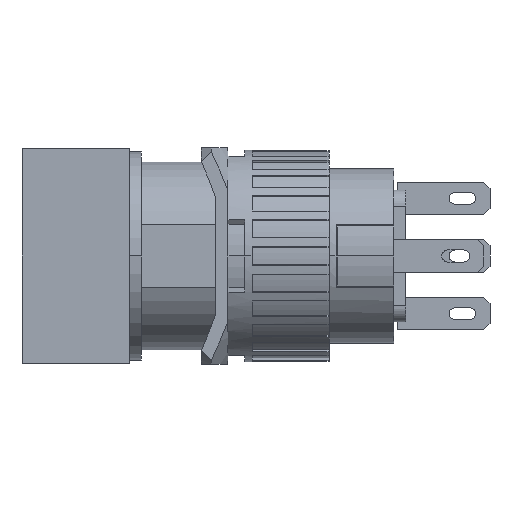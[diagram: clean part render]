
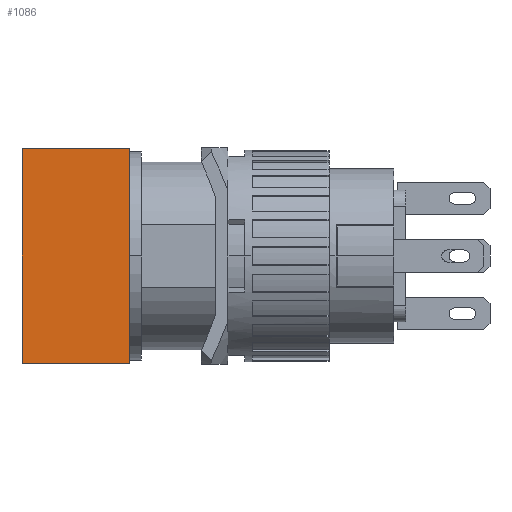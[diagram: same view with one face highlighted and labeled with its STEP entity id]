
A CAD part, left-side view. The second image highlights one B-rep face of the part: STEP entity #1086.
In plain terms, the highlighted planar face has unit normal (-1, 0, 0).
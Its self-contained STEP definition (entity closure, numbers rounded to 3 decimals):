
#913 = EDGE_CURVE ( 'NONE', #1343, #1331, #9861, .T. ) ;
#914 = EDGE_CURVE ( 'NONE', #1334, #1186, #9858, .T. ) ;
#918 = EDGE_CURVE ( 'NONE', #1186, #1331, #9846, .T. ) ;
#922 = EDGE_CURVE ( 'NONE', #1334, #1343, #9834, .T. ) ;
#1086 = ADVANCED_FACE ( 'NONE', ( #6053 ), #7441, .F. ) ;
#1186 = VERTEX_POINT ( 'NONE', #7344 ) ;
#1331 = VERTEX_POINT ( 'NONE', #7199 ) ;
#1334 = VERTEX_POINT ( 'NONE', #7196 ) ;
#1343 = VERTEX_POINT ( 'NONE', #7187 ) ;
#2656 = VECTOR ( 'NONE', #9844, 1000. ) ;
#2663 = VECTOR ( 'NONE', #9856, 1000. ) ;
#2665 = VECTOR ( 'NONE', #9859, 1000. ) ;
#2764 = VECTOR ( 'NONE', #9832, 1000. ) ;
#6053 = FACE_OUTER_BOUND ( 'NONE', #9066, .T. ) ;
#6059 = AXIS2_PLACEMENT_3D ( 'NONE', #7440, #7439, #7438 ) ;
#7187 = CARTESIAN_POINT ( 'NONE',  ( -8.925, 26.9, 8.925 ) ) ;
#7196 = CARTESIAN_POINT ( 'NONE',  ( -8.925, 26.9, -8.925 ) ) ;
#7199 = CARTESIAN_POINT ( 'NONE',  ( -8.925, 18., 8.925 ) ) ;
#7344 = CARTESIAN_POINT ( 'NONE',  ( -8.925, 18., -8.925 ) ) ;
#7438 = DIRECTION ( 'NONE',  ( 0., 1., 0. ) ) ;
#7439 = DIRECTION ( 'NONE',  ( 1., 0., 0. ) ) ;
#7440 = CARTESIAN_POINT ( 'NONE',  ( -8.925, 26.9, 8.925 ) ) ;
#7441 = PLANE ( 'NONE',  #6059 ) ;
#8435 = ORIENTED_EDGE ( 'NONE', *, *, #914, .T. ) ;
#8436 = ORIENTED_EDGE ( 'NONE', *, *, #913, .F. ) ;
#8437 = ORIENTED_EDGE ( 'NONE', *, *, #922, .F. ) ;
#8438 = ORIENTED_EDGE ( 'NONE', *, *, #918, .T. ) ;
#9066 = EDGE_LOOP ( 'NONE', ( #8438, #8436, #8437, #8435 ) ) ;
#9832 = DIRECTION ( 'NONE',  ( 0., 0., 1. ) ) ;
#9833 = CARTESIAN_POINT ( 'NONE',  ( -8.925, 26.9, 8.925 ) ) ;
#9834 = LINE ( 'NONE', #9833, #2764 ) ;
#9844 = DIRECTION ( 'NONE',  ( 0., 0., 1. ) ) ;
#9845 = CARTESIAN_POINT ( 'NONE',  ( -8.925, 18., 8.925 ) ) ;
#9846 = LINE ( 'NONE', #9845, #2656 ) ;
#9856 = DIRECTION ( 'NONE',  ( 0., -1., 0. ) ) ;
#9857 = CARTESIAN_POINT ( 'NONE',  ( -8.925, 26.9, -8.925 ) ) ;
#9858 = LINE ( 'NONE', #9857, #2663 ) ;
#9859 = DIRECTION ( 'NONE',  ( 0., -1., 0. ) ) ;
#9860 = CARTESIAN_POINT ( 'NONE',  ( -8.925, 26.9, 8.925 ) ) ;
#9861 = LINE ( 'NONE', #9860, #2665 ) ;
